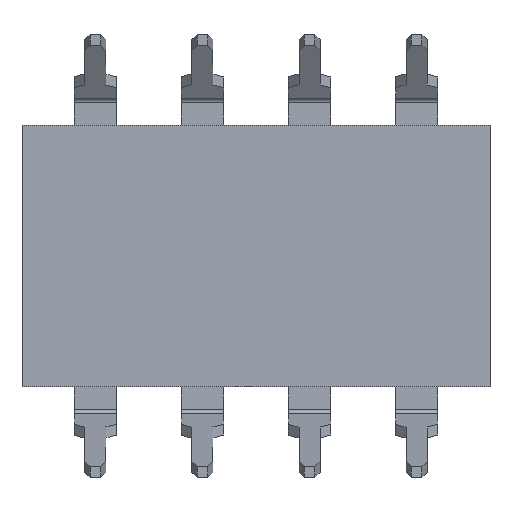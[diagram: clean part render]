
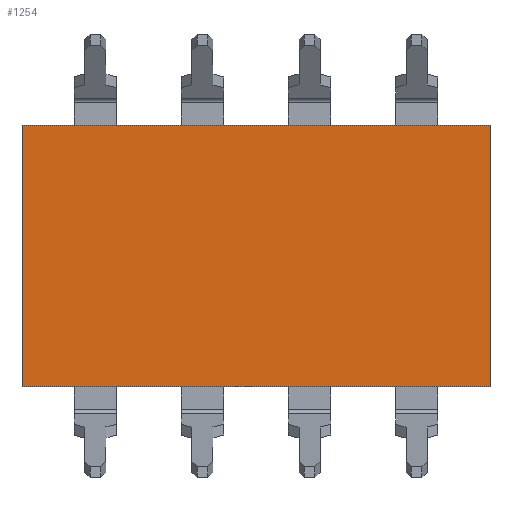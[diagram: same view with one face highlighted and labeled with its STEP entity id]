
A CAD part, front view. The second image highlights one B-rep face of the part: STEP entity #1254.
In plain terms, the highlighted planar face has unit normal (0, -1, 0).
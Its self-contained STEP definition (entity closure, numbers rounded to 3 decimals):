
#1254=ADVANCED_FACE('',(#3257),#3258,.F.);
#2702=VERTEX_POINT('',#4713);
#2712=VERTEX_POINT('',#4723);
#2716=EDGE_CURVE('',#2712,#2702,#4727,.T.);
#2720=VERTEX_POINT('',#4731);
#2724=VERTEX_POINT('',#4735);
#2726=EDGE_CURVE('',#2720,#2724,#4737,.T.);
#2734=EDGE_CURVE('',#2712,#2724,#4745,.T.);
#2736=EDGE_CURVE('',#2702,#2720,#4747,.T.);
#3257=FACE_OUTER_BOUND('',#5258,.T.);
#3258=PLANE('',#5259);
#4713=CARTESIAN_POINT('',(5.55,4.0,3.1));
#4723=CARTESIAN_POINT('',(-5.55,4.0,3.1));
#4727=LINE('',#7567,#7568);
#4731=CARTESIAN_POINT('',(5.55,4.0,-3.1));
#4735=CARTESIAN_POINT('',(-5.55,4.0,-3.1));
#4737=LINE('',#7581,#7582);
#4745=LINE('',#7595,#7596);
#4747=LINE('',#7599,#7600);
#5258=EDGE_LOOP('',(#9115,#9116,#9117,#9118));
#5259=AXIS2_PLACEMENT_3D('',#9119,#9120,#9121);
#7567=CARTESIAN_POINT('',(0.0,4.0,3.1));
#7568=VECTOR('',#9661,1.0);
#7581=CARTESIAN_POINT('',(0.0,4.0,-3.1));
#7582=VECTOR('',#9663,1.0);
#7595=CARTESIAN_POINT('',(-5.55,4.0,0.0));
#7596=VECTOR('',#9666,1.0);
#7599=CARTESIAN_POINT('',(5.55,4.0,0.0));
#7600=VECTOR('',#9667,1.0);
#9115=ORIENTED_EDGE('',*,*,#2734,.T.);
#9116=ORIENTED_EDGE('',*,*,#2726,.F.);
#9117=ORIENTED_EDGE('',*,*,#2736,.F.);
#9118=ORIENTED_EDGE('',*,*,#2716,.F.);
#9119=CARTESIAN_POINT('',(0.0,4.0,0.0));
#9120=DIRECTION('',(0.0,1.0,0.0));
#9121=DIRECTION('',(1.0,0.0,-0.0));
#9661=DIRECTION('',(1.0,0.0,0.0));
#9663=DIRECTION('',(-1.0,0.0,0.0));
#9666=DIRECTION('',(0.0,0.0,-1.0));
#9667=DIRECTION('',(0.0,0.0,-1.0));
